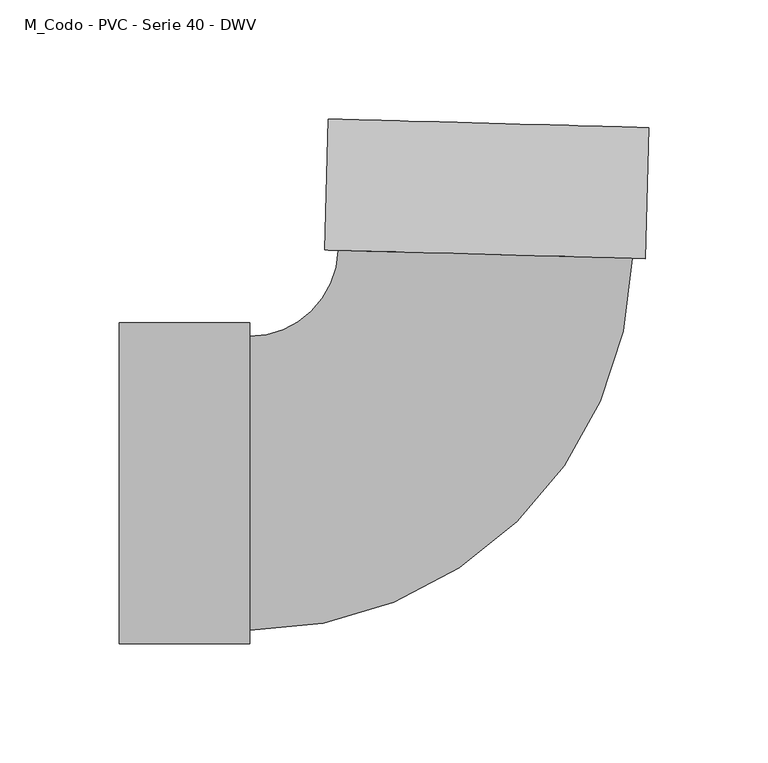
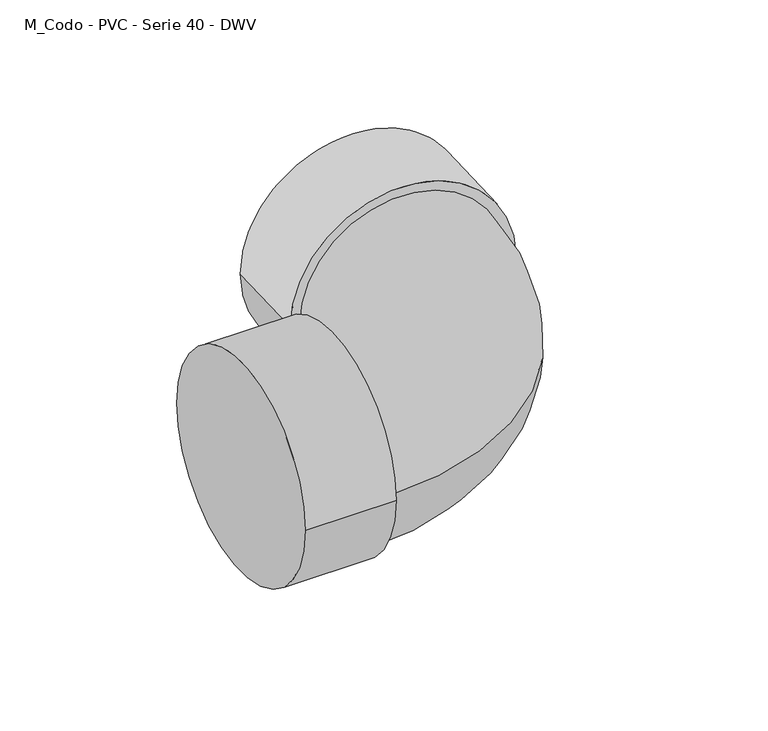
"""IFC4 building model written with IfcOpenShell, lengths in millimetres: pipe fitting geometry, M_Codo - PVC - Serie 40 - DWV : Estándar."""

from ifc_helpers import new_model, si_unit, point, frame, origin, place, context, project, spatial, circle_curve, ellipse_curve, trimmed, source, transform, mapped, element, save
from ifc_brep_helpers import plane_surface, cylinder_surface, revolved_surface, advanced_brep


def m_codo_pvc_serie_40_dwv_8a6eaf4a(model_context):
    return source(origin(), model_context, "Body", "AdvancedBrep", [
        advanced_brep(
        [(-151.2140625, -67.3871094, 0.0), (-151.2140625, 67.3871094, 0.0), (-96.2140625, -67.3871094, 0.0), (-96.2140625, 67.3871094, 0.0), (-96.2140625, -61.7640625, 0.0), (-96.2140625, 61.7640625, 0.0), (-59.1583353, 97.8378077, 0.0), (64.3252508, 94.520936, 0.0), (69.9462702, 94.3699508, 0.0), (-64.7793547, 97.9887929, 0.0), (71.4230832, 149.3501202, 0.0), (-63.3025417, 152.9689623, 0.0)],
        [
            (0, 1, circle_curve(frame((-151.2140625, 0.0, 0.0), z_axis=(-1.0, 0.0, 0.0), x_axis=(0.0, 1.0, 0.0)), 67.3871094)),
            (1, 0, circle_curve(frame((-151.2140625, 0.0, 0.0), z_axis=(-1.0, 0.0, 0.0), x_axis=(0.0, 1.0, 0.0)), 67.3871094)),
            (2, 3, circle_curve(frame((-96.2140625, 0.0, 0.0), z_axis=(1.0, 0.0, 0.0), x_axis=(0.0, 1.0, 0.0)), 67.3871094)),
            (3, 2, circle_curve(frame((-96.2140625, 0.0, 0.0), z_axis=(1.0, 0.0, 0.0), x_axis=(0.0, 1.0, 0.0)), 67.3871094)),
            (4, 5, circle_curve(frame((-96.2140625, 0.0, 0.0), z_axis=(-1.0, 0.0, 0.0), x_axis=(0.0, 1.0, 0.0)), 61.7640625)),
            (5, 4, circle_curve(frame((-96.2140625, 0.0, 0.0), z_axis=(-1.0, 0.0, 0.0), x_axis=(0.0, 1.0, 0.0)), 61.7640625)),
            (0, 2),
            (3, 1),
            (6, 5, circle_curve(frame((-96.2140625, 98.8331552, 0.0), z_axis=(0.0, 0.0, -1.0), x_axis=(0.0, -1.0, 0.0)), 37.0690927)),
            (4, 7, circle_curve(frame((-96.2140625, 98.8331552, 0.0), z_axis=(0.0, 0.0, 1.0), x_axis=(0.0, -1.0, 0.0)), 160.5972177)),
            (7, 6, circle_curve(frame((2.5834578, 96.1793718, 0.0), z_axis=(-0.026851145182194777, -0.9996394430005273, 0.0), x_axis=(-0.9996394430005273, 0.026851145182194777, 0.0)), 61.7640625)),
            (6, 7, circle_curve(frame((2.5834578, 96.1793718, 0.0), z_axis=(-0.026851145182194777, -0.9996394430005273, 0.0), x_axis=(-0.9996394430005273, 0.026851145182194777, 0.0)), 61.7640625)),
            (8, 9, circle_curve(frame((2.5834578, 96.1793718, 0.0), z_axis=(-0.026851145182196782, -0.9996394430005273, 0.0), x_axis=(-0.9996394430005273, 0.026851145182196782, 0.0)), 67.3871094)),
            (9, 8, circle_curve(frame((2.5834578, 96.1793718, 0.0), z_axis=(-0.026851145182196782, -0.9996394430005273, 0.0), x_axis=(-0.9996394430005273, 0.026851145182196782, 0.0)), 67.3871094)),
            (10, 11, circle_curve(frame((4.0602707, 151.1595412, 0.0), z_axis=(0.026851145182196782, 0.9996394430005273, 0.0), x_axis=(-0.9996394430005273, 0.026851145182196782, 0.0)), 67.3871094)),
            (11, 10, circle_curve(frame((4.0602707, 151.1595412, 0.0), z_axis=(0.026851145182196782, 0.9996394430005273, 0.0), x_axis=(-0.9996394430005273, 0.026851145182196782, 0.0)), 67.3871094)),
            (8, 10),
            (11, 9),
        ],
        [
            plane_surface(frame((-151.2140625, 0.0, 0.0), z_axis=(-1.0, 0.0, 0.0), x_axis=(0.0, 0.0, 1.0))),
            plane_surface(frame((-96.2140625, 0.0, 0.0), z_axis=(1.0, 0.0, 0.0), x_axis=(0.0, 0.0, 1.0))),
            cylinder_surface(frame((-151.2140625, 0.0, 0.0), z_axis=(-1.0, 0.0, 0.0), x_axis=(0.0, 1.0, 0.0)), 67.3871094),
            revolved_surface(trimmed(ellipse_curve(frame((-96.2140625, 0.0, 0.0), z_axis=(-1.0, 0.0, 0.0), x_axis=(0.0, 1.0, 0.0)), 61.7640625, 61.7640625), [point((-96.2140625, -61.7640625, 0.0))], [point((-96.2140625, 61.7640625, 0.0))], True, "CARTESIAN"), (-96.2140625, 98.8331552, 0.0), (0.0, 0.0, 1.0)),
            revolved_surface(trimmed(ellipse_curve(frame((-96.2140625, 0.0, 0.0), z_axis=(-1.0, 0.0, 0.0), x_axis=(0.0, 1.0, 0.0)), 61.7640625, 61.7640625), [point((-96.2140625, 61.7640625, 0.0))], [point((-96.2140625, -61.7640625, 0.0))], True, "CARTESIAN"), (-96.2140625, 98.8331552, 0.0), (0.0, 0.0, 1.0)),
            plane_surface(frame((2.5834578, 96.1793718, 0.0), z_axis=(-0.026851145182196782, -0.9996394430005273, 0.0), x_axis=(0.0, 0.0, 1.0))),
            plane_surface(frame((4.0602707, 151.1595412, 0.0), z_axis=(0.026851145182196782, 0.9996394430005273, 0.0), x_axis=(0.0, 0.0, 1.0))),
            cylinder_surface(frame((2.5834578, 96.1793718, 0.0), z_axis=(-0.026851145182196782, -0.9996394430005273, 0.0), x_axis=(-0.9996394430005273, 0.026851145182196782, 0.0)), 67.3871094),
        ],
        [
            (0, [[1, 2]]),
            (1, [[3, 4], [5, 6]]),
            (2, [[-1, 7, -4, 8]]),
            (2, [[-2, -8, -3, -7]]),
            (3, [[9, -5, 10, 11]]),
            (4, [[-9, 12, -10, -6]]),
            (5, [[13, 14], [-11, -12]]),
            (6, [[15, 16]]),
            (7, [[-13, 17, -16, 18]]),
            (7, [[-14, -18, -15, -17]]),
        ],
    ),
    ])


if __name__ == "__main__":
    model = new_model("IFC4")
    model_context = context("Model", 3, world=origin())
    ifc_project = project(units=[si_unit("LENGTHUNIT", "METRE", prefix="MILLI")], contexts=[model_context])
    site = spatial("IfcSite", under=ifc_project)
    building = spatial("IfcBuilding", under=site)
    placement = place(None, origin())
    m_codo_pvc_serie_40_dwv_shape = m_codo_pvc_serie_40_dwv_8a6eaf4a(model_context)
    element("IfcPipeFitting", 1, ObjectType="M_Codo - PVC - Serie 40 - DWV : Estándar", at=placement, inside=building, context=model_context, shape_type="MappedRepresentation", body=[
        mapped(m_codo_pvc_serie_40_dwv_shape, transform((0.0, 0.0, 0.0), x_axis=(1.0, 0.0, 0.0), y_axis=(0.0, 1.0, 0.0), z_axis=(0.0, 0.0, 1.0))),
    ])
    save(model, "model.ifc")
